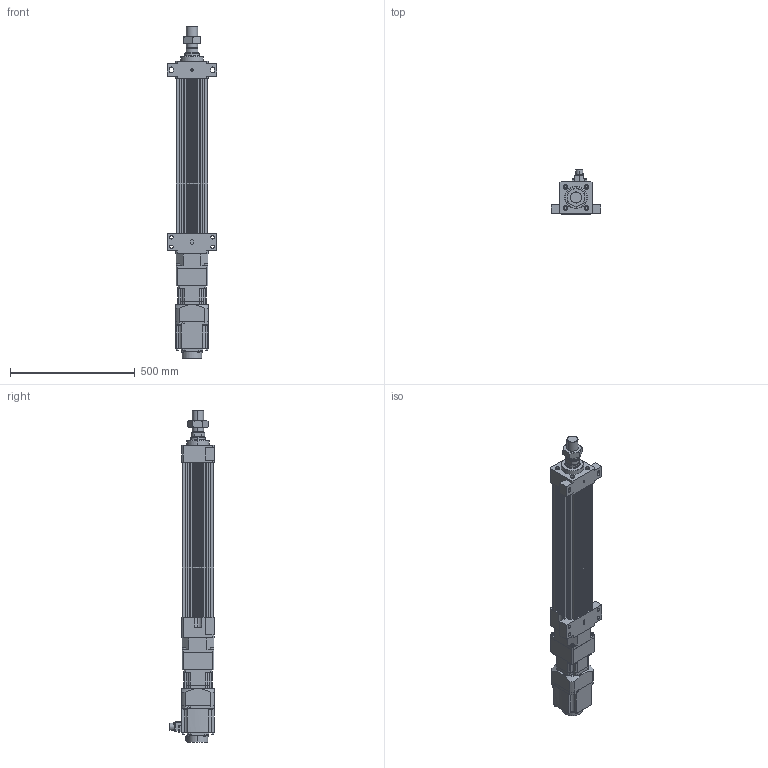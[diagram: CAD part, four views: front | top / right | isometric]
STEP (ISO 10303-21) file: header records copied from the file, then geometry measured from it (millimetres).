
FILE_DESCRIPTION (( 'STEP AP203' ), '1' );
FILE_NAME ('HES130NS(FS)(HS)-S400-W015G00-M-FFB.STEP', '2023-01-30T09:14:35', ( 'tms' ), ( '' ), 'SwSTEP 2.0', 'SolidWorks 2013', '' );
FILE_SCHEMA (( 'CONFIG_CONTROL_DESIGN' ));
Length unit declared in the file: millimetre
Products named in the file (8): P0401400706; HES130NS(FS)(HS)-S400-W015G00-M-FFB; M45X1.5P; HG-SR152; HES130-S400-G120-FFB; HES130 ROD M ST400; AB1151; AB115-003[HG-SR152]
Assembly tree (7 placements, depth 3):
  HES130NS(FS)(HS)-S400-W015G00-M-FFB
    HES130-S400-G120-FFB
    HES130 ROD M ST400
    M45X1.5P
    AB115-003[HG-SR152]
      AB1151
      P0401400706
    HG-SR152
Bounding box: 200 x 177.49 x 1329.5 mm (x, y, z)
Volume: 10635899.4 mm3; surface area: 1359268.9 mm2
Topology: 4 solids, 15 shells, 1211 faces, 3070 edges, 1998 vertices
Faces by surface type: plane 571, cylinder 546, cone 82, bspline 8, torus 4
Entity records: 38310 total; most frequent: CARTESIAN_POINT 7264, DIRECTION 6633, ORIENTED_EDGE 6092, EDGE_CURVE 3056, AXIS2_PLACEMENT_3D 2435, VERTEX_POINT 1998, LINE 1763, VECTOR 1763
